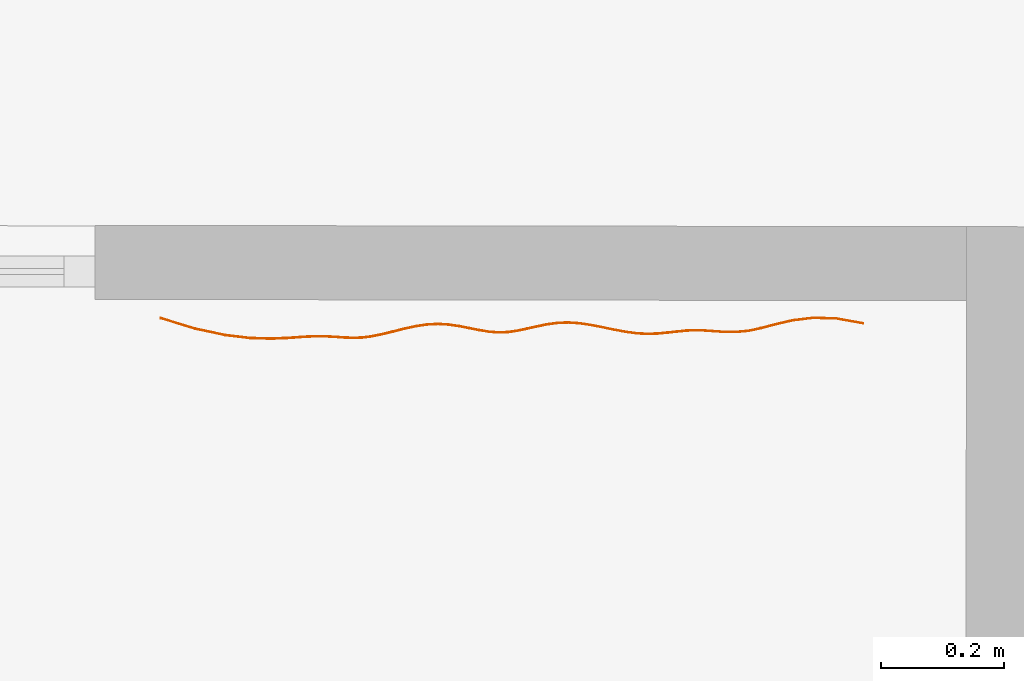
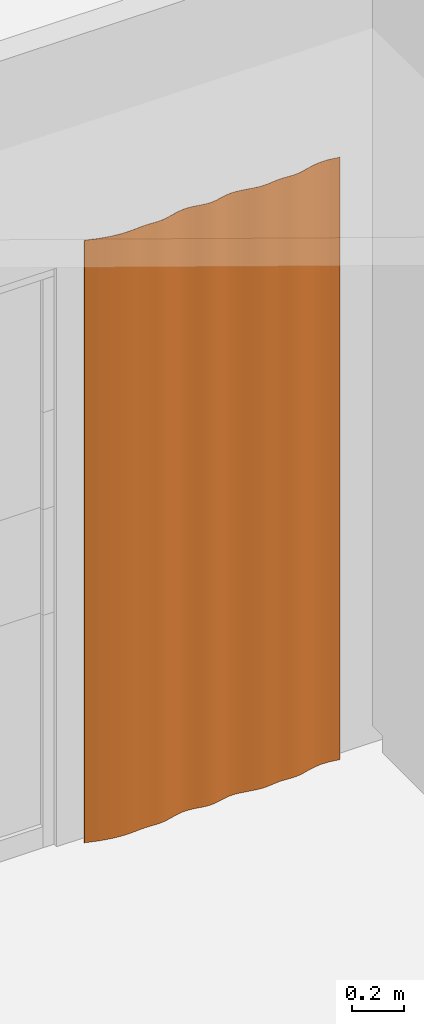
# One storey, part 42 of 43: 1 proxy.
"""IFC2X3 building model written with IfcOpenShell, lengths in metres."""

from ifc_helpers import new_model, entity, si_unit, converted_unit, derived_unit, direction, frame, origin, place, context, subcontext, project, spatial, polyline, outline, extrude, source, transform, mapped, material, type_object, type_shapes, element, save


model = new_model("IFC2X3")

# Units and contexts
model_context = context("Model", 3, precision=1e-05, world=origin(), true_north=direction((6.123233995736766e-17, 1.0)))
body_context = subcontext(model_context, "Body", "Model", "MODEL_VIEW")
ifc_project = project(units=[si_unit("LENGTHUNIT", "METRE"), si_unit("AREAUNIT", "SQUARE_METRE"), converted_unit("PLANEANGLEUNIT", "DEGREE", entity("IfcPlaneAngleMeasure", 0.017453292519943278), si_unit("PLANEANGLEUNIT", "RADIAN"), dimensions=[0, 0, 0, 0, 0, 0, 0]), derived_unit("THERMALTRANSMITTANCEUNIT", [(si_unit("MASSUNIT", "GRAM", prefix="KILO"), 1), (si_unit("THERMODYNAMICTEMPERATUREUNIT", "KELVIN"), -1), (si_unit("TIMEUNIT", "SECOND"), -3)])], contexts=[model_context])

# Site, building, storey
site_placement = place(None, frame((1253.6752467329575, 2072.143113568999, 91.49999999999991), z_axis=(0.0, 0.0, 1.0), x_axis=(0.7237211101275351, 0.6900925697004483, 0.0)))
site = spatial("IfcSite", under=ifc_project, at=site_placement, Name="Surface", CompositionType="ELEMENT")
building_placement = place(site_placement, origin())
building = spatial("IfcBuilding", under=site, at=building_placement, CompositionType="ELEMENT")
storey_placement = place(building_placement, frame((0.0, 0.0, -4.629999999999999)))
storey = spatial("IfcBuildingStorey", under=building, at=storey_placement, Name="rez de rue -1.10m", CompositionType="ELEMENT", Elevation=-4.629999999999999)

# Proxy
ifc_material = material(Name="OMD-rideaux")
building_element_proxy_type = type_object("IfcBuildingElementProxyType", Name="A6305 - Drapes:A6305 - Drapes, Pair 36\"x 3\"", PredefinedType="NOTDEFINED", material=ifc_material)
shared_shape = source(origin(), body_context, "Body", "SweptSolid", [
    extrude(outline(polyline([(-0.540311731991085, -0.1077539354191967), (-0.4951550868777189, -0.10775393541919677), (-0.45775509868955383, -0.10197111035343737), (-0.4267200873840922, -0.09249701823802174), (-0.40065837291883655, -0.08142321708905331), (-0.37817827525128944, -0.07084126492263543), (-0.357923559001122, -0.06275253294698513), (-0.33914756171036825, -0.05760737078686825), (-0.3216170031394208, -0.05454985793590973), (-0.30511463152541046, -0.052683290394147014), (-0.2894231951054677, -0.051110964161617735), (-0.2743254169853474, -0.048936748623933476), (-0.25958908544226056, -0.045605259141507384), (-0.24494186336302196, -0.04147659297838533), (-0.2301047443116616, -0.037063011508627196), (-0.21479872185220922, -0.03287677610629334), (-0.19874478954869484, -0.029430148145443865), (-0.18166507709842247, -0.027233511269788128), (-0.16347717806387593, -0.026474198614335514), (-0.14451436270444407, -0.02665253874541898), (-0.1251631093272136, -0.027180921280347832), (-0.10580989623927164, -0.02747173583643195), (-0.08684120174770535, -0.02693737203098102), (-0.06864350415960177, -0.02499021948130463), (-0.05152103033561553, -0.0211999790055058), (-0.03536042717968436, -0.01593500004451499), (-0.019916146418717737, -0.009816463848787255), (-0.004942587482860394, -0.003465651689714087), (0.009805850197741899, 0.0024961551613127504), (0.024574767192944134, 0.007447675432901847), (0.03960912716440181, 0.01077071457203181), (0.055070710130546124, 0.012250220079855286), (0.07095634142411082, 0.01247057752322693), (0.08724341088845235, 0.012110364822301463), (0.10390930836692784, 0.011848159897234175), (0.12093142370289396, 0.01236254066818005), (0.13828714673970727, 0.01433208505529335), (0.15594663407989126, 0.018392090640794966), (0.17375475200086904, 0.024428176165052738), (0.1914503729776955, 0.03169174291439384), (0.20876902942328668, 0.039414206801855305), (0.22544625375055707, 0.046826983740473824), (0.24121757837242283, 0.05316148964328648), (0.2558661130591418, 0.05772196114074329), (0.2697127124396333, 0.06063569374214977), (0.28341801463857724, 0.06255004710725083), (0.29764800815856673, 0.06412057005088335), (0.3130686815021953, 0.06600281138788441), (0.3303460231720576, 0.06885231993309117), (0.3501495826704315, 0.07331152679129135), (0.3733567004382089, 0.07925742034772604), (0.40116346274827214, 0.0853928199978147), (0.4347929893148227, 0.09032096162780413), (0.4754683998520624, 0.09264508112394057), (0.5244128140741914, 0.090968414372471), (0.5828493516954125, 0.08389419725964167), (0.5826371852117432, 0.08500080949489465), (0.5240718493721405, 0.09207915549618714), (0.47498167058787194, 0.09375140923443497), (0.4341554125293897, 0.09141037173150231), (0.40039038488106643, 0.08645618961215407), (0.3724943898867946, 0.08029783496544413), (0.34928946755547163, 0.07434512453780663), (0.329597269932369, 0.06990234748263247), (0.3124183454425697, 0.06707066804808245), (0.29705471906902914, 0.06519398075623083), (0.2828157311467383, 0.06361819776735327), (0.26902736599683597, 0.061690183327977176), (0.2550363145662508, 0.058742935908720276), (0.24022599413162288, 0.0541300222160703), (0.22436131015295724, 0.047753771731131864), (0.20766392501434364, 0.04032926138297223), (0.19037690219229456, 0.03261690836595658), (0.17276251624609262, 0.025378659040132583), (0.15511381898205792, 0.019407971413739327), (0.137656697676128, 0.015371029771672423), (0.12049046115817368, 0.013425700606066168), (0.10359413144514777, 0.012916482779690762), (0.08698066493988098, 0.013170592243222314), (0.07067445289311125, 0.013531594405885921), (0.05468900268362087, 0.013307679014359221), (0.03903749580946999, 0.011785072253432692), (0.02379220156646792, 0.008441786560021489), (0.008884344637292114, 0.003428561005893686), (-0.005922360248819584, -0.0025588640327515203), (-0.02088294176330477, -0.008904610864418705), (-0.0362464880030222, -0.01500070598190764), (-0.05226221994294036, -0.020214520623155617), (-0.06918078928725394, -0.023957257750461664), (-0.08718869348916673, -0.025904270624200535), (-0.10604467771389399, -0.02642834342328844), (-0.1253404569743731, -0.02614482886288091), (-0.14468982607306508, -0.02562008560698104), (-0.16370616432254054, -0.02544421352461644), (-0.18201695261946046, -0.02621331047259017), (-0.19925781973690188, -0.028433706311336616), (-0.2154304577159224, -0.03190870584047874), (-0.23079899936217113, -0.03611496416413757), (-0.24563715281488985, -0.04053168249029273), (-0.2602196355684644, -0.04464498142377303), (-0.274819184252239, -0.047944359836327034), (-0.2897868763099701, -0.05010714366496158), (-0.3054472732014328, -0.05168031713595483), (-0.32201099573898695, -0.05355618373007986), (-0.339675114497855, -0.05663775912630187), (-0.3586396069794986, -0.06185455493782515), (-0.3790529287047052, -0.06998759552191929), (-0.4015399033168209, -0.0805881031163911), (-0.42746218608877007, -0.09160877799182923), (-0.45826126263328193, -0.10101760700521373), (-0.49537444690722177, -0.10676284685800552), (-0.5402404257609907, -0.10677038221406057), (-0.540311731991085, -0.1077539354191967)])), frame((-0.7277431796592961, -0.38589664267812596, 4.629999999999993), z_axis=(0.0, 0.0, 1.0), x_axis=(-0.9821122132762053, 0.18829657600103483, 0.0)), (0.0, 0.0, 1.0), 2.852139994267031),
])
type_shapes(building_element_proxy_type, [shared_shape])
proxy_placement = place(storey_placement, frame((176.88701428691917, -3.7430874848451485, -4.629999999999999), z_axis=(0.0, 0.0, 1.0), x_axis=(0.7325696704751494, -0.6806920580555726, 0.0)))
element("IfcBuildingElementProxy", 1, at=proxy_placement, inside=storey, type_object=building_element_proxy_type, material=ifc_material, Name="A6305 - Drapes:A6305 - Drapes, Pair 36\"x 3\"", ObjectType="A6305 - Drapes:A6305 - Drapes, Pair 36\"x 3\"", context=body_context, shape_type="MappedRepresentation", body=[
    mapped(shared_shape, transform((0.0, 0.0, 0.0), scale=1.0)),
])

save(model, "model.ifc")
